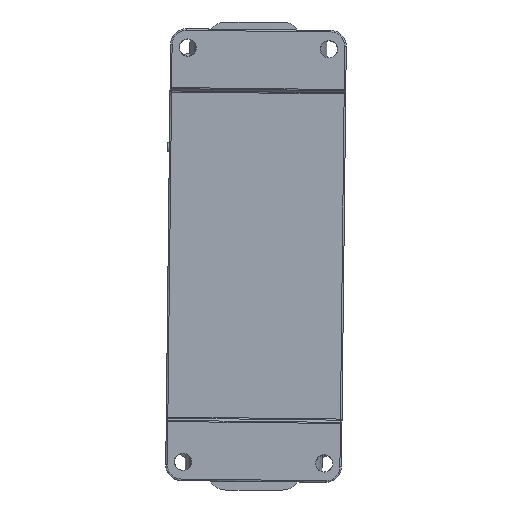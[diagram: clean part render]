
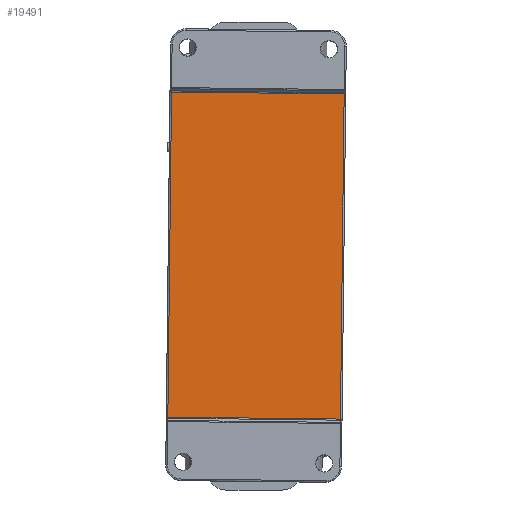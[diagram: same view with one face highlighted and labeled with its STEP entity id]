
A CAD part, front view. The second image highlights one B-rep face of the part: STEP entity #19491.
In plain terms, the highlighted planar face has unit normal (0, -1, 0).
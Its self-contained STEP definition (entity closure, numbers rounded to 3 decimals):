
#1576 = FACE_OUTER_BOUND ( 'NONE', #11629, .T. ) ;
#2181 = LINE ( 'NONE', #17464, #7834 ) ;
#2406 = DIRECTION ( 'NONE',  ( 0., 0., 1. ) ) ;
#2727 = CARTESIAN_POINT ( 'NONE',  ( -33.6, 1., -65.043 ) ) ;
#3274 = EDGE_CURVE ( 'NONE', #9266, #15807, #9017, .T. ) ;
#3770 = VECTOR ( 'NONE', #18353, 1000. ) ;
#4100 = CARTESIAN_POINT ( 'NONE',  ( -27.5, 1., -38.75 ) ) ;
#5396 = DIRECTION ( 'NONE',  ( -1., 0., 0. ) ) ;
#5479 = EDGE_CURVE ( 'NONE', #11406, #9266, #17893, .T. ) ;
#5735 = LINE ( 'NONE', #4100, #7912 ) ;
#6331 = AXIS2_PLACEMENT_3D ( 'NONE', #21017, #21158, #2406 ) ;
#7834 = VECTOR ( 'NONE', #15771, 1000. ) ;
#7912 = VECTOR ( 'NONE', #21081, 1000. ) ;
#7972 = VECTOR ( 'NONE', #5396, 1000. ) ;
#8046 = CARTESIAN_POINT ( 'NONE',  ( 27.5, 1., -38.787 ) ) ;
#9017 = LINE ( 'NONE', #2727, #7972 ) ;
#9059 = PLANE ( 'NONE',  #6331 ) ;
#9266 = VERTEX_POINT ( 'NONE', #21228 ) ;
#9592 = ORIENTED_EDGE ( 'NONE', *, *, #3274, .F. ) ;
#11220 = CARTESIAN_POINT ( 'NONE',  ( 27.5, 1., 38.543 ) ) ;
#11406 = VERTEX_POINT ( 'NONE', #11220 ) ;
#11424 = VERTEX_POINT ( 'NONE', #21607 ) ;
#11629 = EDGE_LOOP ( 'NONE', ( #11955, #9592, #20150, #11720 ) ) ;
#11720 = ORIENTED_EDGE ( 'NONE', *, *, #16885, .F. ) ;
#11955 = ORIENTED_EDGE ( 'NONE', *, *, #12733, .F. ) ;
#12733 = EDGE_CURVE ( 'NONE', #15807, #11424, #5735, .T. ) ;
#14579 = CARTESIAN_POINT ( 'NONE',  ( -27.5, 1., -65.043 ) ) ;
#15771 = DIRECTION ( 'NONE',  ( 1., 0., 0. ) ) ;
#15807 = VERTEX_POINT ( 'NONE', #14579 ) ;
#16885 = EDGE_CURVE ( 'NONE', #11424, #11406, #2181, .T. ) ;
#17464 = CARTESIAN_POINT ( 'NONE',  ( -33.6, 1., 38.543 ) ) ;
#17893 = LINE ( 'NONE', #8046, #3770 ) ;
#18353 = DIRECTION ( 'NONE',  ( 0., 0., -1. ) ) ;
#19491 = ADVANCED_FACE ( 'NONE', ( #1576 ), #9059, .F. ) ;
#20150 = ORIENTED_EDGE ( 'NONE', *, *, #5479, .F. ) ;
#21017 = CARTESIAN_POINT ( 'NONE',  ( -33.6, 1., -38.75 ) ) ;
#21081 = DIRECTION ( 'NONE',  ( 0., 0., 1. ) ) ;
#21158 = DIRECTION ( 'NONE',  ( 0., 1., 0. ) ) ;
#21228 = CARTESIAN_POINT ( 'NONE',  ( 27.5, 1., -65.043 ) ) ;
#21607 = CARTESIAN_POINT ( 'NONE',  ( -27.5, 1., 38.543 ) ) ;
